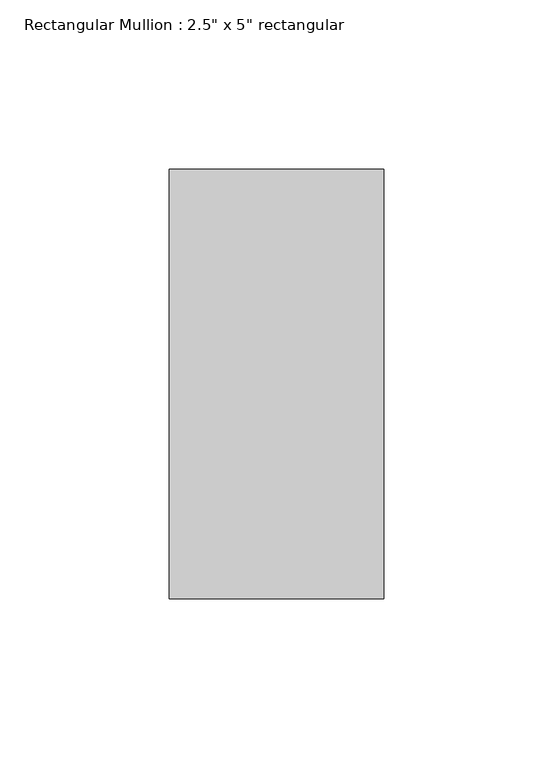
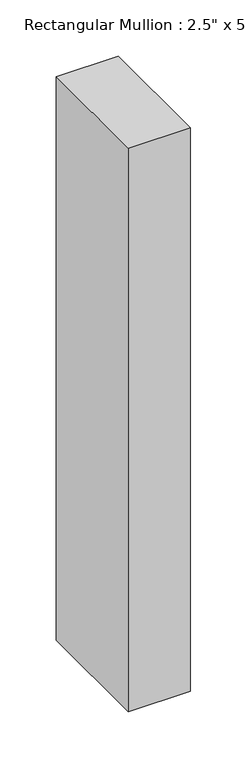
"""IFC4 building model written with IfcOpenShell, lengths in millimetres: member geometry."""

from ifc_helpers import new_model, si_unit, frame, origin, place, context, project, spatial, polyline, outline, extrude, source, transform, mapped, element, save


def member_47bfaf8a(model_context):
    return source(origin(), model_context, "Body", "SweptSolid", [
        extrude(outline(polyline([(0.0, 63.5), (0.0, -63.5), (-63.5, -63.5), (-63.5, 63.5), (0.0, 63.5)])), frame((0.0, 0.0, -609.6), z_axis=(0.0, 0.0, 1.0), x_axis=(1.0, 0.0, 0.0)), (0.0, 0.0, 1.0), 609.6),
    ])


if __name__ == "__main__":
    model = new_model("IFC4")
    model_context = context("Model", 3, world=origin())
    ifc_project = project(units=[si_unit("LENGTHUNIT", "METRE", prefix="MILLI")], contexts=[model_context])
    site = spatial("IfcSite", under=ifc_project)
    building = spatial("IfcBuilding", under=site)
    placement = place(None, origin())
    member_shape = member_47bfaf8a(model_context)
    element("IfcMember", 1, ObjectType="Rectangular Mullion : 2.5\" x 5\" rectangular", at=placement, inside=building, context=model_context, shape_type="MappedRepresentation", body=[
        mapped(member_shape, transform((0.0, 0.0, 0.0), x_axis=(1.0, 0.0, 0.0), y_axis=(0.0, 1.0, 0.0), z_axis=(0.0, 0.0, 1.0))),
    ])
    save(model, "model.ifc")
